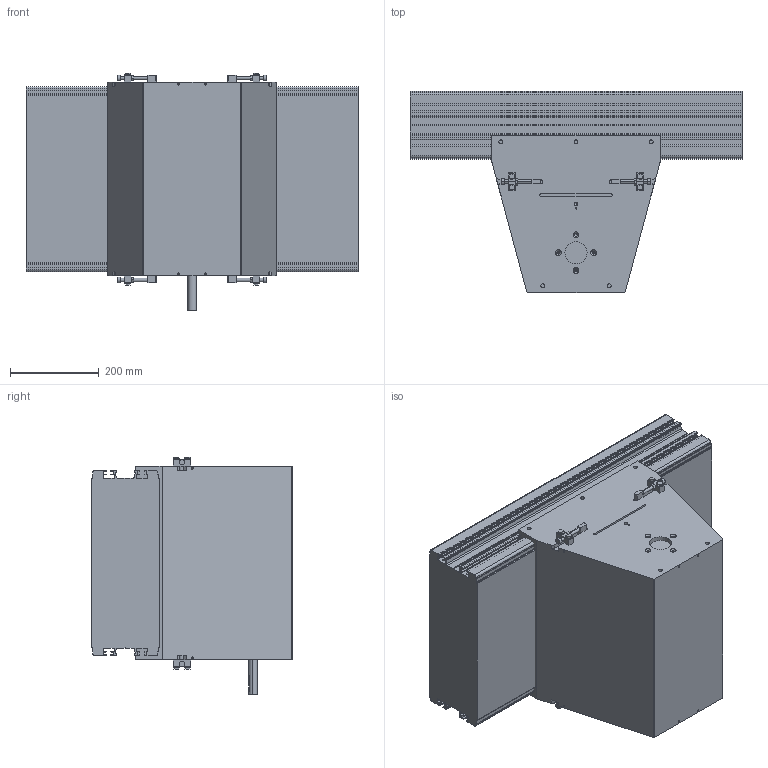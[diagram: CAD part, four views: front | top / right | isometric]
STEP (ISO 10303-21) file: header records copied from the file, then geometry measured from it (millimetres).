
FILE_DESCRIPTION (( 'STEP AP214' ), '1' );
FILE_NAME ('F2 1500 MID.step', '2017-04-05T06:48:11', ( '' ), ( '' ), 'SwSTEP 2.0', 'SolidWorks 2015', '' );
FILE_SCHEMA (( 'AUTOMOTIVE_DESIGN' ));
Length unit declared in the file: millimetre
Products named in the file (1): F2 1500 MID
Bounding box: 750 x 454.7 x 537.4 mm (x, y, z)
Volume: 94666440.2 mm3; surface area: 2140267.4 mm2
Topology: 31 solids, 35 shells, 668 faces, 1655 edges, 1044 vertices
Faces by surface type: plane 351, cylinder 233, cone 68, torus 16
Entity records: 23693 total; most frequent: DIRECTION 3449, CARTESIAN_POINT 3387, ORIENTED_EDGE 3206, EDGE_CURVE 1603, AXIS2_PLACEMENT_3D 1180, LINE 1089, VECTOR 1089, VERTEX_POINT 1044
